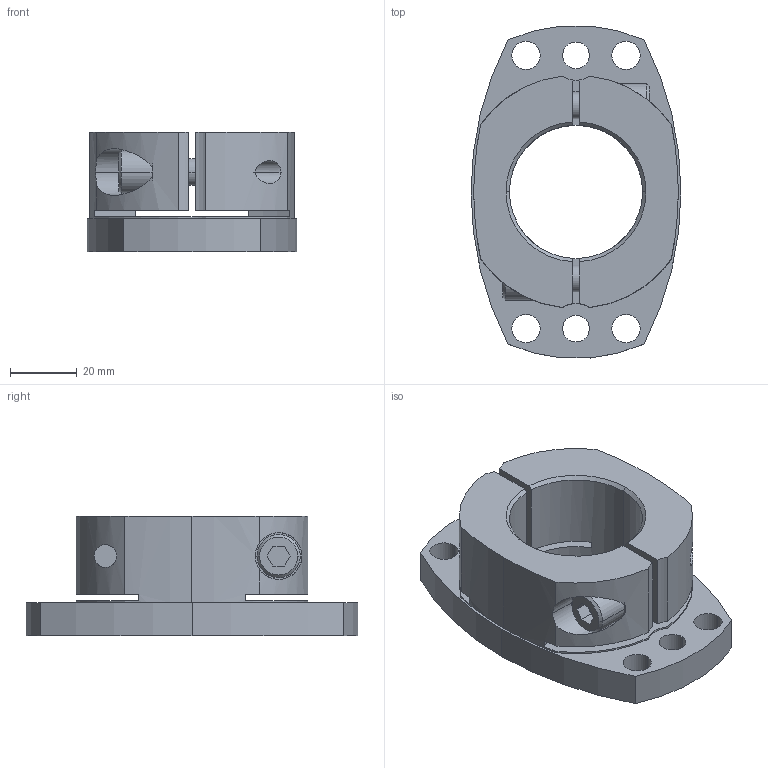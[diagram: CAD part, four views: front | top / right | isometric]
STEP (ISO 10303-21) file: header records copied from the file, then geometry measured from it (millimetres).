
FILE_DESCRIPTION((''),'2;1');
FILE_NAME('SHDB-100B-40.stp','2026-01-28T08:43:07',(''),(''),'AutoCAD STEP 2000i','AutoCAD 2000i',', , ');
FILE_SCHEMA(('CONFIG_CONTROL_DESIGN'));
Length unit declared in the file: millimetre
Products named in the file (2): SHDB-100B-38; 忣兜1
Assembly tree (1 placements, depth 2):
  SHDB-100B-38
    忣兜1
Bounding box: 63 x 99.64 x 36 mm (x, y, z)
Volume: 92177.1 mm3; surface area: 27692.8 mm2
Topology: 1 solids, 1 shells, 102 faces, 274 edges, 180 vertices
Faces by surface type: cylinder 58, plane 34, cone 10
Entity records: 3625 total; most frequent: CARTESIAN_POINT 826, DIRECTION 600, ORIENTED_EDGE 548, EDGE_CURVE 274, AXIS2_PLACEMENT_3D 238, VERTEX_POINT 180, CIRCLE 134, EDGE_LOOP 126
